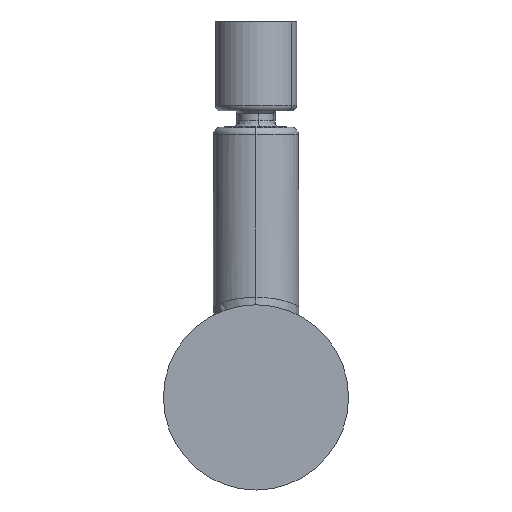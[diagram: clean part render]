
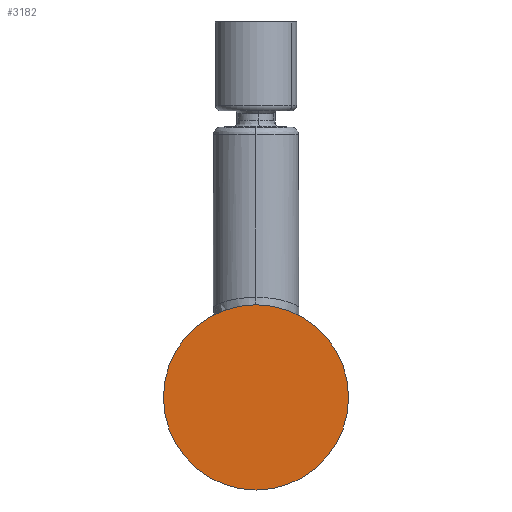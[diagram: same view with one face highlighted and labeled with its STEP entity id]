
A CAD part, front view. The second image highlights one B-rep face of the part: STEP entity #3182.
In plain terms, the highlighted planar face has unit normal (0, -1, 0).
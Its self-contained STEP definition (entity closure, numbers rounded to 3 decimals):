
#223 = DIRECTION ( 'NONE',  ( 0., 1., 0. ) ) ;
#513 = CARTESIAN_POINT ( 'NONE',  ( 0., -5., 0. ) ) ;
#550 = DIRECTION ( 'NONE',  ( 0., 1., 0. ) ) ;
#655 = ORIENTED_EDGE ( 'NONE', *, *, #6143, .F. ) ;
#663 = EDGE_LOOP ( 'NONE', ( #655, #2704 ) ) ;
#1345 = EDGE_CURVE ( 'NONE', #5970, #6462, #4772, .T. ) ;
#1965 = PLANE ( 'NONE',  #5867 ) ;
#2145 = DIRECTION ( 'NONE',  ( 1., 0., 0. ) ) ;
#2412 = DIRECTION ( 'NONE',  ( 1., 0., 0. ) ) ;
#2704 = ORIENTED_EDGE ( 'NONE', *, *, #1345, .F. ) ;
#2957 = FACE_OUTER_BOUND ( 'NONE', #663, .T. ) ;
#3041 = CARTESIAN_POINT ( 'NONE',  ( 25., -5., 0. ) ) ;
#3182 = ADVANCED_FACE ( 'NONE', ( #2957 ), #1965, .F. ) ;
#3235 = DIRECTION ( 'NONE',  ( 1., 0., 0. ) ) ;
#3520 = CIRCLE ( 'NONE', #5854, 25. ) ;
#3626 = DIRECTION ( 'NONE',  ( 0., 1., 0. ) ) ;
#3883 = AXIS2_PLACEMENT_3D ( 'NONE', #4399, #223, #3235 ) ;
#4069 = CARTESIAN_POINT ( 'NONE',  ( 0., -5., 0. ) ) ;
#4399 = CARTESIAN_POINT ( 'NONE',  ( 0., -5., 0. ) ) ;
#4772 = CIRCLE ( 'NONE', #3883, 25. ) ;
#5854 = AXIS2_PLACEMENT_3D ( 'NONE', #513, #550, #2145 ) ;
#5867 = AXIS2_PLACEMENT_3D ( 'NONE', #4069, #3626, #2412 ) ;
#5878 = CARTESIAN_POINT ( 'NONE',  ( -25., -5., 0. ) ) ;
#5970 = VERTEX_POINT ( 'NONE', #3041 ) ;
#6143 = EDGE_CURVE ( 'NONE', #6462, #5970, #3520, .T. ) ;
#6462 = VERTEX_POINT ( 'NONE', #5878 ) ;
